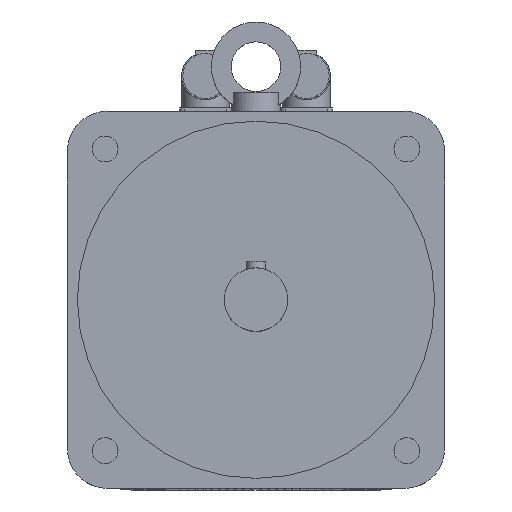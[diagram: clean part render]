
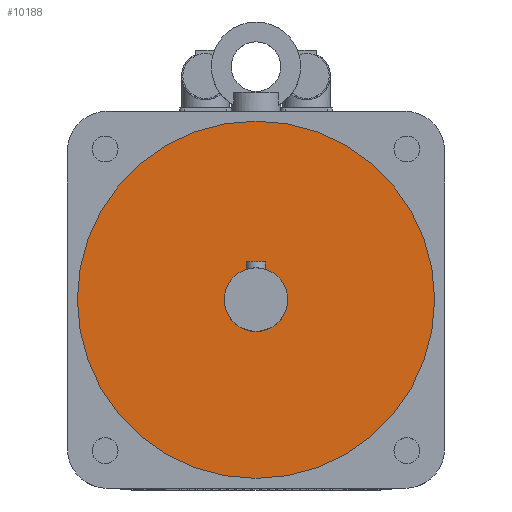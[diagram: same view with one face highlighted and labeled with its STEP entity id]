
A CAD part, top view. The second image highlights one B-rep face of the part: STEP entity #10188.
In plain terms, the highlighted planar face has unit normal (0, 0, 1).
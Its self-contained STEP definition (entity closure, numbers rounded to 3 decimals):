
#208=FACE_BOUND('',#973,.T.);
#290=FACE_OUTER_BOUND('',#972,.T.);
#972=EDGE_LOOP('',(#7169));
#973=EDGE_LOOP('',(#7170));
#1611=CIRCLE('',#10835,16.);
#1612=CIRCLE('',#10837,90.);
#4590=VERTEX_POINT('',#15520);
#4591=VERTEX_POINT('',#15523);
#5600=EDGE_CURVE('',#4590,#4590,#1611,.T.);
#5601=EDGE_CURVE('',#4591,#4591,#1612,.T.);
#7169=ORIENTED_EDGE('',*,*,#5601,.F.);
#7170=ORIENTED_EDGE('',*,*,#5600,.T.);
#9671=PLANE('',#10836);
#10188=ADVANCED_FACE('',(#290,#208),#9671,.T.);
#10835=AXIS2_PLACEMENT_3D('',#15521,#12180,#12181);
#10836=AXIS2_PLACEMENT_3D('',#15522,#12182,#12183);
#10837=AXIS2_PLACEMENT_3D('',#15524,#12184,#12185);
#12180=DIRECTION('center_axis',(0.,0.,-1.));
#12181=DIRECTION('ref_axis',(1.,0.,0.));
#12182=DIRECTION('center_axis',(0.,0.,1.));
#12183=DIRECTION('ref_axis',(1.,0.,0.));
#12184=DIRECTION('center_axis',(0.,0.,-1.));
#12185=DIRECTION('ref_axis',(1.,0.,0.));
#15520=CARTESIAN_POINT('',(0.,16.,447.));
#15521=CARTESIAN_POINT('Origin',(0.,0.,447.));
#15522=CARTESIAN_POINT('Origin',(0.,90.,447.));
#15523=CARTESIAN_POINT('',(0.,90.,447.));
#15524=CARTESIAN_POINT('Origin',(0.,0.,447.));
